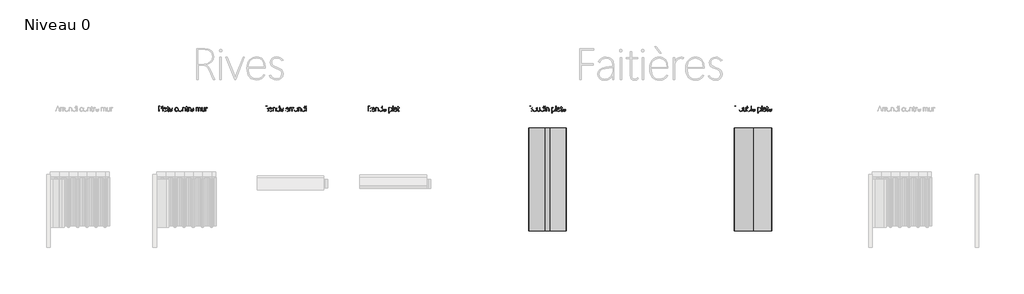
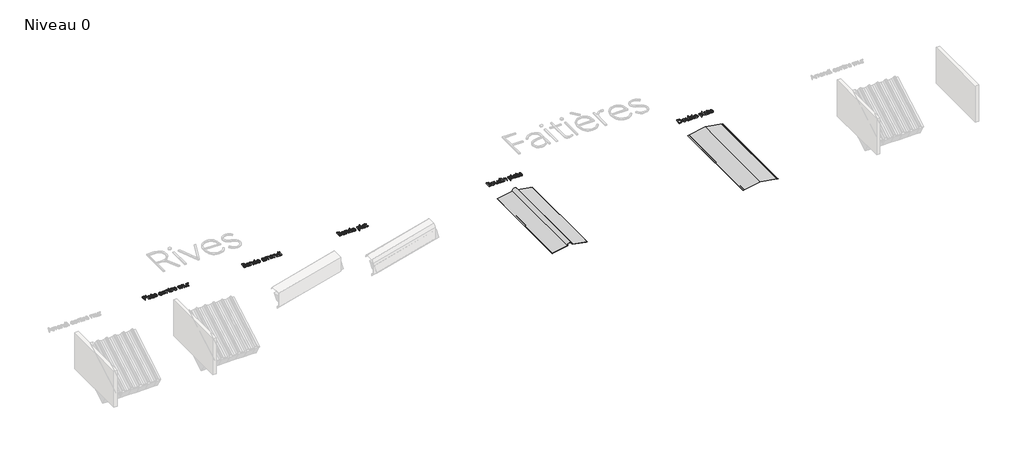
# One storey, part 18 of 26: 7 proxies.
"""IFC4 building model written with IfcOpenShell, lengths in millimetres."""

from ifc_helpers import new_model, si_unit, origin, origin_with_axes, place, context, project, spatial, polyline, outline, extrude, transform, mapped, element, save
from components import generic_models_b31ef93d, generic_models_a14e3ee3

model = new_model("IFC4")

# Units and contexts
model_context = context("Model", 3, world=origin())
ifc_project = project(units=[si_unit("LENGTHUNIT", "METRE", prefix="MILLI")], contexts=[model_context])

# Site, building, storey
site = spatial("IfcSite", under=ifc_project)
building = spatial("IfcBuilding", under=site)
storey = spatial("IfcBuildingStorey", under=building, Name="Niveau 0", Elevation=0.0)

# Proxies
placement = place(None, origin())
generic_models_shape = generic_models_b31ef93d(model_context)
element("IfcBuildingElementProxy", 1, Name="Faitiaire a bondin plat : Faitiaire a bondin plat", ObjectType="Faitiaire a bondin plat : Faitiaire a bondin plat", at=placement, inside=storey, context=model_context, shape_type="MappedRepresentation", body=[
    mapped(generic_models_shape, transform((20043.1822429, -8404.0846084, 0.0), x_axis=(0.0, -1.0, 0.0), y_axis=(1.0, 0.0, 0.0), z_axis=(0.0, 0.0, 1.0))),
])
generic_models_2_shape = generic_models_a14e3ee3(model_context)
element("IfcBuildingElementProxy", 2, Name="Faitaire a double plat : Faitaire a double plat", ObjectType="Faitaire a double plat : Faitaire a double plat", at=placement, inside=storey, context=model_context, shape_type="MappedRepresentation", body=[
    mapped(generic_models_2_shape, transform((22043.1822429, -8404.4337097, 0.0), x_axis=(0.0, -1.0, 0.0), y_axis=(1.0, 0.0, 0.0), z_axis=(0.0, 0.0, 1.0))),
])
element("IfcBuildingElementProxy", 3, Name="0.5mm", ObjectType="0.5mm", at=placement, inside=storey, context=model_context, shape_type="SweptSolid", body=[
    extrude(outline(polyline([(21864.535279, -8239.2596825), (21864.535279, -8189.2569805), (21875.5147476, -8189.2569805), (21886.3361447, -8190.891627), (21894.5205351, -8195.7955665), (21899.6699506, -8203.5931464), (21901.3864224, -8213.9087143), (21899.6085816, -8224.3116864), (21894.2750592, -8232.3714793), (21885.9325971, -8237.5376317), (21875.1279371, -8239.2596825), (21864.535279, -8239.2596825)]), holes=[polyline([(21866.841265, -8191.3844385), (21866.841265, -8237.1322245), (21874.8898998, -8237.1322245), (21884.9302371, -8235.5849823), (21892.5864824, -8230.9432557), (21897.4346319, -8223.6087326), (21899.0506818, -8213.9831009), (21897.4774042, -8204.3983818), (21892.7575717, -8197.2758607), (21885.2296433, -8192.857294), (21875.2320784, -8191.3844385), (21866.841265, -8191.3844385)])]), origin_with_axes(), (0.0, 0.0, 1.0), 10.0),
    extrude(outline(polyline([(21924.7884605, -8240.0928129), (21912.5667349, -8234.9303798), (21907.9175697, -8221.4812746), (21912.7229469, -8207.9131508), (21924.9223565, -8202.676331), (21937.0622568, -8207.9280281), (21941.6593514, -8221.406888), (21937.0027475, -8234.8783092), (21924.7884605, -8240.0928129)]), holes=[polyline([(21924.8628472, -8238.0397415), (21935.4555053, -8233.4054536), (21939.427752, -8221.3771333), (21935.4703826, -8209.3636903), (21924.9223565, -8204.7442797), (21914.2404344, -8209.4455156), (21910.149169, -8221.5110293), (21914.1734865, -8233.4575243), (21924.8628472, -8238.0397415)])]), origin_with_axes(), (0.0, 0.0, 1.0), 10.0),
    extrude(outline(polyline([(21975.2672371, -8239.2299278), (21973.139779, -8239.2299278), (21973.139779, -8233.1153457), (21968.1856286, -8238.3000948), (21961.282548, -8240.0928129), (21952.1478681, -8236.366042), (21948.8004692, -8226.0486145), (21948.8004692, -8203.5243388), (21950.9576818, -8203.5243388), (21950.9576818, -8225.8403319), (21953.7620583, -8234.7816065), (21961.461076, -8238.0397415), (21969.8221347, -8234.5733239), (21973.139779, -8225.7659453), (21973.139779, -8203.5243388), (21975.2672371, -8203.5243388), (21975.2672371, -8239.2299278)])), origin_with_axes(), (0.0, 0.0, 1.0), 10.0),
    extrude(outline(polyline([(21987.9724758, -8233.1897323), (21987.8683345, -8239.2596825), (21985.7111219, -8239.2596825), (21985.7111219, -8186.4005333), (21987.8683345, -8186.4005333), (21987.8683345, -8211.6771149), (21993.1721022, -8205.2054769), (22001.644741, -8202.676331), (22012.415927, -8207.3850056), (22016.2840325, -8220.186947), (22011.9621685, -8234.9006251), (22000.3950454, -8240.0928129), (21992.7034664, -8238.1587601), (21987.9724758, -8233.1897323)]), holes=[polyline([(21987.8683345, -8219.7257498), (21987.8683345, -8226.0783692), (21991.3719455, -8234.5361306), (22000.4248, -8238.0397415), (22010.310785, -8233.5244722), (22014.0524332, -8220.2167016), (22010.7273502, -8208.8355451), (22001.5405997, -8204.7442797), (21991.6546147, -8208.9768798), (21987.8683345, -8219.7257498)])]), origin_with_axes(), (0.0, 0.0, 1.0), 10.0),
    extrude(outline(polyline([(22024.7492326, -8239.2596825), (22024.7492326, -8186.4005333), (22026.9064452, -8186.4005333), (22026.9064452, -8239.2596825), (22024.7492326, -8239.2596825)])), origin_with_axes(), (0.0, 0.0, 1.0), 10.0),
    extrude(outline(polyline([(22064.9626522, -8220.4770549), (22037.6925086, -8220.7374082), (22041.2705062, -8233.7476322), (22051.1267365, -8238.0694962), (22057.8810437, -8236.3957967), (22062.6566663, -8231.3746982), (22064.546087, -8232.3863566), (22059.07123, -8238.1661988), (22051.1267365, -8240.1374449), (22039.7530186, -8235.3543837), (22035.5055413, -8220.6332669), (22039.9092306, -8207.5932882), (22051.1267365, -8202.676331), (22061.332584, -8207.176723), (22064.9626522, -8220.4770549)]), holes=[polyline([(22062.7608076, -8218.7289688), (22059.5026726, -8208.2776453), (22051.0523498, -8204.7442797), (22041.9548633, -8208.3669093), (22037.7966499, -8218.7289688), (22062.7608076, -8218.7289688)])]), origin_with_axes(), (0.0, 0.0, 1.0), 10.0),
    extrude(outline(polyline([(22092.7088704, -8233.1897323), (22092.6047291, -8255.6842534), (22090.4475164, -8255.6842534), (22090.4475164, -8203.5540934), (22092.6047291, -8203.5540934), (22092.6047291, -8211.6771149), (22097.8266715, -8205.1905996), (22106.2769942, -8202.676331), (22117.0035483, -8207.5784109), (22120.9609177, -8220.320843), (22116.6316151, -8234.9303798), (22105.0868079, -8240.0928129), (22097.4249836, -8238.1587601), (22092.7088704, -8233.1897323)]), holes=[polyline([(22092.6047291, -8219.7257498), (22092.6047291, -8226.0783692), (22096.10834, -8234.5361306), (22105.1314399, -8238.0397415), (22114.9951089, -8233.5616656), (22118.7293184, -8220.3654749), (22115.3075328, -8209.0140731), (22106.1728529, -8204.7442797), (22096.197604, -8209.1554077), (22092.6047291, -8219.7257498)])]), origin_with_axes(), (0.0, 0.0, 1.0), 10.0),
    extrude(outline(polyline([(22129.4856271, -8239.2596825), (22129.4856271, -8186.4005333), (22131.6428398, -8186.4005333), (22131.6428398, -8239.2596825), (22129.4856271, -8239.2596825)])), origin_with_axes(), (0.0, 0.0, 1.0), 10.0),
    extrude(outline(polyline([(22166.6343171, -8239.2596825), (22164.4622271, -8239.2596825), (22164.4622271, -8232.3863566), (22159.2179687, -8237.9356002), (22151.6677243, -8240.0928129), (22143.6339668, -8237.3033137), (22140.792397, -8230.1547573), (22143.89432, -8222.8871822), (22153.6315317, -8219.145534), (22164.506859, -8217.6131691), (22164.506859, -8215.5154658), (22161.7694305, -8207.4817082), (22154.3605208, -8204.7442797), (22148.1343587, -8206.4179792), (22143.6488441, -8211.364691), (22141.6701594, -8210.2488914), (22147.085507, -8204.6178224), (22154.3605208, -8202.676331), (22163.3017954, -8206.0088527), (22166.6343171, -8215.5452204), (22166.6343171, -8239.2596825)]), holes=[polyline([(22164.4622271, -8225.3493801), (22164.4622271, -8219.6662405), (22153.8993236, -8221.094464), (22145.6572835, -8224.0699298), (22143.0239963, -8230.095248), (22145.4118076, -8235.9494768), (22151.8462523, -8238.1141282), (22160.7205789, -8234.4319893), (22164.4622271, -8225.3493801)])]), origin_with_axes(), (0.0, 0.0, 1.0), 10.0),
    extrude(outline(polyline([(22191.7323707, -8237.519035), (22188.7940983, -8239.3861398), (22185.5582793, -8239.9589169), (22180.5223035, -8238.0025482), (22178.8337266, -8232.1483193), (22178.8337266, -8205.5476555), (22172.287702, -8205.5476555), (22172.287702, -8203.5540934), (22178.8337266, -8203.5540934), (22178.8337266, -8193.9582164), (22180.9909393, -8193.5862831), (22180.9909393, -8203.5540934), (22190.7207123, -8203.5540934), (22190.7207123, -8205.5476555), (22180.9909393, -8205.5476555), (22180.9909393, -8231.999546), (22182.1811256, -8236.4850607), (22185.7070525, -8237.9653549), (22188.1618118, -8237.496719), (22190.4826751, -8235.9420382), (22191.7323707, -8237.519035)])), origin_with_axes(), (0.0, 0.0, 1.0), 10.0),
    extrude(outline(polyline([(22224.9236912, -8220.4770549), (22197.6535475, -8220.7374082), (22201.2315451, -8233.7476322), (22211.0877754, -8238.0694962), (22217.8420827, -8236.3957967), (22222.6177052, -8231.3746982), (22224.507126, -8232.3863566), (22219.032269, -8238.1661988), (22211.0877754, -8240.1374449), (22199.7140576, -8235.3543837), (22195.4665802, -8220.6332669), (22199.8702695, -8207.5932882), (22211.0877754, -8202.676331), (22221.293623, -8207.176723), (22224.9236912, -8220.4770549)]), holes=[polyline([(22222.7218465, -8218.7289688), (22219.4637115, -8208.2776453), (22211.0133888, -8204.7442797), (22201.9159022, -8208.3669093), (22197.7576888, -8218.7289688), (22222.7218465, -8218.7289688)])]), origin_with_axes(), (0.0, 0.0, 1.0), 10.0),
])
element("IfcBuildingElementProxy", 4, Name="0.5mm", ObjectType="0.5mm", at=placement, inside=storey, context=model_context, shape_type="SweptSolid", body=[
    extrude(outline(polyline([(19868.3438752, -8239.2596825), (19868.3438752, -8189.2569805), (19880.7961994, -8189.2569805), (19890.1986711, -8192.4481675), (19893.7543527, -8201.0398249), (19891.2624001, -8208.4487346), (19884.6196728, -8213.0011972), (19892.4897798, -8217.0627079), (19895.6437735, -8225.6915586), (19891.6492107, -8235.4957183), (19881.0639913, -8239.2596825), (19868.3438752, -8239.2596825)]), holes=[polyline([(19870.6498611, -8191.4141931), (19870.6498611, -8212.2722081), (19878.2372988, -8212.2722081), (19887.7811052, -8209.237233), (19891.3888574, -8201.1885981), (19888.495217, -8193.9954097), (19880.3647568, -8191.4141931), (19870.6498611, -8191.4141931)]), polyline([(19870.6498611, -8214.3996661), (19870.6498611, -8237.0578378), (19880.7218127, -8237.0578378), (19889.9308792, -8234.0600561), (19893.2782782, -8225.8700866), (19889.3729794, -8217.2561132), (19878.4604587, -8214.3996661), (19870.6498611, -8214.3996661)])]), origin_with_axes(), (0.0, 0.0, 1.0), 10.0),
    extrude(outline(polyline([(19919.0755663, -8240.0928129), (19906.8538407, -8234.9303798), (19902.2046755, -8221.4812746), (19907.0100526, -8207.9131508), (19919.2094622, -8202.676331), (19931.3493625, -8207.9280281), (19935.9464571, -8221.406888), (19931.2898532, -8234.8783092), (19919.0755663, -8240.0928129)]), holes=[polyline([(19919.1499529, -8238.0397415), (19929.742611, -8233.4054536), (19933.7148578, -8221.3771333), (19929.7574883, -8209.3636903), (19919.2094622, -8204.7442797), (19908.5275402, -8209.4455156), (19904.4362748, -8221.5110293), (19908.4605922, -8233.4575243), (19919.1499529, -8238.0397415)])]), origin_with_axes(), (0.0, 0.0, 1.0), 10.0),
    extrude(outline(polyline([(19969.5543428, -8239.2299278), (19967.4268848, -8239.2299278), (19967.4268848, -8233.1153457), (19962.4727343, -8238.3000948), (19955.5696538, -8240.0928129), (19946.4349739, -8236.366042), (19943.0875749, -8226.0486145), (19943.0875749, -8203.5243388), (19945.2447876, -8203.5243388), (19945.2447876, -8225.8403319), (19948.0491641, -8234.7816065), (19955.7481817, -8238.0397415), (19964.1092405, -8234.5733239), (19967.4268848, -8225.7659453), (19967.4268848, -8203.5243388), (19969.5543428, -8203.5243388), (19969.5543428, -8239.2299278)])), origin_with_axes(), (0.0, 0.0, 1.0), 10.0),
    extrude(outline(polyline([(20005.6839357, -8231.5532262), (20000.469432, -8237.8314589), (19992.5546931, -8240.0928129), (19981.5677858, -8235.1237851), (19977.4244497, -8221.9275945), (19982.1480016, -8207.8387641), (19993.8787753, -8202.676331), (20000.9008745, -8204.4021012), (20005.6318651, -8209.3116197), (20005.7360064, -8186.4005333), (20007.8932191, -8186.4005333), (20007.8932191, -8239.2596825), (20005.7360064, -8239.2596825), (20005.6839357, -8231.5532262)]), holes=[polyline([(19979.656049, -8221.7936985), (19983.2638013, -8233.7699482), (19992.6142024, -8238.0397415), (20002.1580088, -8233.9410374), (20005.7360064, -8223.6087326), (20005.7360064, -8216.1403136), (20002.3514141, -8208.0172921), (19993.8341434, -8204.7442797), (19983.6803665, -8209.3413743), (19979.656049, -8221.7936985)])]), origin_with_axes(), (0.0, 0.0, 1.0), 10.0),
    extrude(outline(polyline([(20019.9141007, -8194.8359788), (20018.2701559, -8194.211131), (20017.6081147, -8192.5746248), (20018.2701559, -8190.93068), (20019.9141007, -8190.2983935), (20021.5952389, -8190.93068), (20022.2052093, -8192.5746248), (20021.5952389, -8194.211131), (20019.9141007, -8194.8359788)])), origin_with_axes(), (0.0, 0.0, 1.0), 10.0),
    extrude(outline(polyline([(20021.0299004, -8239.2596825), (20018.8578104, -8239.2596825), (20018.8578104, -8203.5540934), (20021.0299004, -8203.5540934), (20021.0299004, -8239.2596825)])), origin_with_axes(), (0.0, 0.0, 1.0), 10.0),
    extrude(outline(polyline([(20059.7853418, -8239.2596825), (20057.6578838, -8239.2596825), (20057.6578838, -8217.018076), (20054.9353326, -8207.9652214), (20047.3627723, -8204.7442797), (20038.7934309, -8208.19582), (20035.4757866, -8217.018076), (20035.4757866, -8239.2596825), (20033.3185739, -8239.2596825), (20033.3185739, -8203.5540934), (20035.4757866, -8203.5540934), (20035.4757866, -8209.6537982), (20040.3778664, -8204.4764878), (20047.4817909, -8202.676331), (20056.5569615, -8206.4626112), (20059.7853418, -8216.8097934), (20059.7853418, -8239.2596825)])), origin_with_axes(), (0.0, 0.0, 1.0), 10.0),
    extrude(outline(polyline([(20088.9002742, -8233.1897323), (20088.7961329, -8255.6842534), (20086.6389202, -8255.6842534), (20086.6389202, -8203.5540934), (20088.7961329, -8203.5540934), (20088.7961329, -8211.6771149), (20094.0180753, -8205.1905996), (20102.4683981, -8202.676331), (20113.1949521, -8207.5784109), (20117.1523216, -8220.320843), (20112.8230189, -8234.9303798), (20101.2782118, -8240.0928129), (20093.6163874, -8238.1587601), (20088.9002742, -8233.1897323)]), holes=[polyline([(20088.7961329, -8219.7257498), (20088.7961329, -8226.0783692), (20092.2997438, -8234.5361306), (20101.3228437, -8238.0397415), (20111.1865127, -8233.5616656), (20114.9207222, -8220.3654749), (20111.4989366, -8209.0140731), (20102.3642568, -8204.7442797), (20092.3890078, -8209.1554077), (20088.7961329, -8219.7257498)])]), origin_with_axes(), (0.0, 0.0, 1.0), 10.0),
    extrude(outline(polyline([(20125.6770309, -8239.2596825), (20125.6770309, -8186.4005333), (20127.8342436, -8186.4005333), (20127.8342436, -8239.2596825), (20125.6770309, -8239.2596825)])), origin_with_axes(), (0.0, 0.0, 1.0), 10.0),
    extrude(outline(polyline([(20162.8257209, -8239.2596825), (20160.6536309, -8239.2596825), (20160.6536309, -8232.3863566), (20155.4093725, -8237.9356002), (20147.8591281, -8240.0928129), (20139.8253706, -8237.3033137), (20136.9838008, -8230.1547573), (20140.0857239, -8222.8871822), (20149.8229355, -8219.145534), (20160.6982629, -8217.6131691), (20160.6982629, -8215.5154658), (20157.9608344, -8207.4817082), (20150.5519247, -8204.7442797), (20144.3257626, -8206.4179792), (20139.8402479, -8211.364691), (20137.8615632, -8210.2488914), (20143.2769109, -8204.6178224), (20150.5519247, -8202.676331), (20159.4931992, -8206.0088527), (20162.8257209, -8215.5452204), (20162.8257209, -8239.2596825)]), holes=[polyline([(20160.6536309, -8225.3493801), (20160.6536309, -8219.6662405), (20150.0907275, -8221.094464), (20141.8486873, -8224.0699298), (20139.2154001, -8230.095248), (20141.6032114, -8235.9494768), (20148.0376561, -8238.1141282), (20156.9119827, -8234.4319893), (20160.6536309, -8225.3493801)])]), origin_with_axes(), (0.0, 0.0, 1.0), 10.0),
    extrude(outline(polyline([(20187.9237745, -8237.519035), (20184.9855021, -8239.3861398), (20181.7496831, -8239.9589169), (20176.7137073, -8238.0025482), (20175.0251305, -8232.1483193), (20175.0251305, -8205.5476555), (20168.4791058, -8205.5476555), (20168.4791058, -8203.5540934), (20175.0251305, -8203.5540934), (20175.0251305, -8193.9582164), (20177.1823432, -8193.5862831), (20177.1823432, -8203.5540934), (20186.9121162, -8203.5540934), (20186.9121162, -8205.5476555), (20177.1823432, -8205.5476555), (20177.1823432, -8231.999546), (20178.3725295, -8236.4850607), (20181.8984564, -8237.9653549), (20184.3532156, -8237.496719), (20186.6740789, -8235.9420382), (20187.9237745, -8237.519035)])), origin_with_axes(), (0.0, 0.0, 1.0), 10.0),
    extrude(outline(polyline([(20221.115095, -8220.4770549), (20193.8449514, -8220.7374082), (20197.4229489, -8233.7476322), (20207.2791793, -8238.0694962), (20214.0334865, -8236.3957967), (20218.8091091, -8231.3746982), (20220.6985298, -8232.3863566), (20215.2236728, -8238.1661988), (20207.2791793, -8240.1374449), (20195.9054614, -8235.3543837), (20191.657984, -8220.6332669), (20196.0616734, -8207.5932882), (20207.2791793, -8202.676331), (20217.4850268, -8207.176723), (20221.115095, -8220.4770549)]), holes=[polyline([(20218.9132504, -8218.7289688), (20215.6551154, -8208.2776453), (20207.2047926, -8204.7442797), (20198.1073061, -8208.3669093), (20193.9490927, -8218.7289688), (20218.9132504, -8218.7289688)])]), origin_with_axes(), (0.0, 0.0, 1.0), 10.0),
])
element("IfcBuildingElementProxy", 5, Name="0.5mm", ObjectType="0.5mm", at=placement, inside=storey, context=model_context, shape_type="SweptSolid", body=[
    extrude(outline(polyline([(18301.2173677, -8239.2596825), (18301.2173677, -8189.2569805), (18313.6696919, -8189.2569805), (18323.0721637, -8192.4481675), (18326.6278453, -8201.0398249), (18324.1358927, -8208.4487346), (18317.4931654, -8213.0011972), (18325.3632723, -8217.0627079), (18328.517266, -8225.6915586), (18324.5227033, -8235.4957183), (18313.9374838, -8239.2596825), (18301.2173677, -8239.2596825)]), holes=[polyline([(18303.5233537, -8191.4141931), (18303.5233537, -8212.2722081), (18311.1107914, -8212.2722081), (18320.6545978, -8209.237233), (18324.26235, -8201.1885981), (18321.3687096, -8193.9954097), (18313.2382494, -8191.4141931), (18303.5233537, -8191.4141931)]), polyline([(18303.5233537, -8214.3996661), (18303.5233537, -8237.0578378), (18313.5953053, -8237.0578378), (18322.8043718, -8234.0600561), (18326.1517708, -8225.8700866), (18322.246472, -8217.2561132), (18311.3339513, -8214.3996661), (18303.5233537, -8214.3996661)])]), origin_with_axes(), (0.0, 0.0, 1.0), 10.0),
    extrude(outline(polyline([(18361.4705493, -8239.2596825), (18359.2984593, -8239.2596825), (18359.2984593, -8232.3863566), (18354.0542009, -8237.9356002), (18346.5039565, -8240.0928129), (18338.470199, -8237.3033137), (18335.6286292, -8230.1547573), (18338.7305522, -8222.8871822), (18348.4677639, -8219.145534), (18359.3430913, -8217.6131691), (18359.3430913, -8215.5154658), (18356.6056628, -8207.4817082), (18349.196753, -8204.7442797), (18342.9705909, -8206.4179792), (18338.4850763, -8211.364691), (18336.5063916, -8210.2488914), (18341.9217393, -8204.6178224), (18349.196753, -8202.676331), (18358.1380276, -8206.0088527), (18361.4705493, -8215.5452204), (18361.4705493, -8239.2596825)]), holes=[polyline([(18359.2984593, -8225.3493801), (18359.2984593, -8219.6662405), (18348.7355558, -8221.094464), (18340.4935157, -8224.0699298), (18337.8602285, -8230.095248), (18340.2480398, -8235.9494768), (18346.6824845, -8238.1141282), (18355.5568111, -8234.4319893), (18359.2984593, -8225.3493801)])]), origin_with_axes(), (0.0, 0.0, 1.0), 10.0),
    extrude(outline(polyline([(18398.3960793, -8239.2596825), (18396.2686213, -8239.2596825), (18396.2686213, -8217.018076), (18393.5460701, -8207.9652214), (18385.9735098, -8204.7442797), (18377.4041684, -8208.19582), (18374.0865241, -8217.018076), (18374.0865241, -8239.2596825), (18371.9293114, -8239.2596825), (18371.9293114, -8203.5540934), (18374.0865241, -8203.5540934), (18374.0865241, -8209.6537982), (18378.9886039, -8204.4764878), (18386.0925284, -8202.676331), (18395.1676989, -8206.4626112), (18398.3960793, -8216.8097934), (18398.3960793, -8239.2596825)])), origin_with_axes(), (0.0, 0.0, 1.0), 10.0),
    extrude(outline(polyline([(18433.7966831, -8231.5532262), (18428.5821794, -8237.8314589), (18420.6674405, -8240.0928129), (18409.6805332, -8235.1237851), (18405.5371971, -8221.9275945), (18410.260749, -8207.8387641), (18421.9915227, -8202.676331), (18429.0136219, -8204.4021012), (18433.7446125, -8209.3116197), (18433.8487538, -8186.4005333), (18436.0059664, -8186.4005333), (18436.0059664, -8239.2596825), (18433.8487538, -8239.2596825), (18433.7966831, -8231.5532262)]), holes=[polyline([(18407.7687964, -8221.7936985), (18411.3765486, -8233.7699482), (18420.7269498, -8238.0397415), (18430.2707562, -8233.9410374), (18433.8487538, -8223.6087326), (18433.8487538, -8216.1403136), (18430.4641615, -8208.0172921), (18421.9468907, -8204.7442797), (18411.7931138, -8209.3413743), (18407.7687964, -8221.7936985)])]), origin_with_axes(), (0.0, 0.0, 1.0), 10.0),
    extrude(outline(polyline([(18474.0324188, -8220.4770549), (18446.7622751, -8220.7374082), (18450.3402727, -8233.7476322), (18460.196503, -8238.0694962), (18466.9508103, -8236.3957967), (18471.7264328, -8231.3746982), (18473.6158536, -8232.3863566), (18468.1409966, -8238.1661988), (18460.196503, -8240.1374449), (18448.8227852, -8235.3543837), (18444.5753078, -8220.6332669), (18448.9789971, -8207.5932882), (18460.196503, -8202.676331), (18470.4023505, -8207.176723), (18474.0324188, -8220.4770549)]), holes=[polyline([(18471.8305741, -8218.7289688), (18468.5724391, -8208.2776453), (18460.1221164, -8204.7442797), (18451.0246298, -8208.3669093), (18446.8664164, -8218.7289688), (18471.8305741, -8218.7289688)])]), origin_with_axes(), (0.0, 0.0, 1.0), 10.0),
    extrude(outline(polyline([(18501.7786369, -8233.1897323), (18501.6744956, -8255.6842534), (18499.517283, -8255.6842534), (18499.517283, -8203.5540934), (18501.6744956, -8203.5540934), (18501.6744956, -8211.6771149), (18506.896438, -8205.1905996), (18515.3467608, -8202.676331), (18526.0733148, -8207.5784109), (18530.0306843, -8220.320843), (18525.7013816, -8234.9303798), (18514.1565745, -8240.0928129), (18506.4947501, -8238.1587601), (18501.7786369, -8233.1897323)]), holes=[polyline([(18501.6744956, -8219.7257498), (18501.6744956, -8226.0783692), (18505.1781066, -8234.5361306), (18514.2012065, -8238.0397415), (18524.0648754, -8233.5616656), (18527.799085, -8220.3654749), (18524.3772993, -8209.0140731), (18515.2426195, -8204.7442797), (18505.2673705, -8209.1554077), (18501.6744956, -8219.7257498)])]), origin_with_axes(), (0.0, 0.0, 1.0), 10.0),
    extrude(outline(polyline([(18538.5553937, -8239.2596825), (18538.5553937, -8186.4005333), (18540.7126063, -8186.4005333), (18540.7126063, -8239.2596825), (18538.5553937, -8239.2596825)])), origin_with_axes(), (0.0, 0.0, 1.0), 10.0),
    extrude(outline(polyline([(18575.7040836, -8239.2596825), (18573.5319936, -8239.2596825), (18573.5319936, -8232.3863566), (18568.2877352, -8237.9356002), (18560.7374909, -8240.0928129), (18552.7037333, -8237.3033137), (18549.8621635, -8230.1547573), (18552.9640866, -8222.8871822), (18562.7012983, -8219.145534), (18573.5766256, -8217.6131691), (18573.5766256, -8215.5154658), (18570.8391971, -8207.4817082), (18563.4302874, -8204.7442797), (18557.2041253, -8206.4179792), (18552.7186106, -8211.364691), (18550.7399259, -8210.2488914), (18556.1552736, -8204.6178224), (18563.4302874, -8202.676331), (18572.371562, -8206.0088527), (18575.7040836, -8215.5452204), (18575.7040836, -8239.2596825)]), holes=[polyline([(18573.5319936, -8225.3493801), (18573.5319936, -8219.6662405), (18562.9690902, -8221.094464), (18554.72705, -8224.0699298), (18552.0937628, -8230.095248), (18554.4815741, -8235.9494768), (18560.9160188, -8238.1141282), (18569.7903454, -8234.4319893), (18573.5319936, -8225.3493801)])]), origin_with_axes(), (0.0, 0.0, 1.0), 10.0),
    extrude(outline(polyline([(18600.8021372, -8237.519035), (18597.8638648, -8239.3861398), (18594.6280458, -8239.9589169), (18589.59207, -8238.0025482), (18587.9034932, -8232.1483193), (18587.9034932, -8205.5476555), (18581.3574685, -8205.5476555), (18581.3574685, -8203.5540934), (18587.9034932, -8203.5540934), (18587.9034932, -8193.9582164), (18590.0607059, -8193.5862831), (18590.0607059, -8203.5540934), (18599.7904789, -8203.5540934), (18599.7904789, -8205.5476555), (18590.0607059, -8205.5476555), (18590.0607059, -8231.999546), (18591.2508922, -8236.4850607), (18594.7768191, -8237.9653549), (18597.2315783, -8237.496719), (18599.5524416, -8235.9420382), (18600.8021372, -8237.519035)])), origin_with_axes(), (0.0, 0.0, 1.0), 10.0),
])
element("IfcBuildingElementProxy", 6, Name="0.5mm", ObjectType="0.5mm", at=placement, inside=storey, context=model_context, shape_type="SweptSolid", body=[
    extrude(outline(polyline([(17301.2173677, -8239.2596825), (17301.2173677, -8189.2569805), (17313.6696919, -8189.2569805), (17323.0721637, -8192.4481675), (17326.6278453, -8201.0398249), (17324.1358927, -8208.4487346), (17317.4931654, -8213.0011972), (17325.3632723, -8217.0627079), (17328.517266, -8225.6915586), (17324.5227033, -8235.4957183), (17313.9374838, -8239.2596825), (17301.2173677, -8239.2596825)]), holes=[polyline([(17303.5233537, -8191.4141931), (17303.5233537, -8212.2722081), (17311.1107914, -8212.2722081), (17320.6545978, -8209.237233), (17324.26235, -8201.1885981), (17321.3687096, -8193.9954097), (17313.2382494, -8191.4141931), (17303.5233537, -8191.4141931)]), polyline([(17303.5233537, -8214.3996661), (17303.5233537, -8237.0578378), (17313.5953053, -8237.0578378), (17322.8043718, -8234.0600561), (17326.1517708, -8225.8700866), (17322.246472, -8217.2561132), (17311.3339513, -8214.3996661), (17303.5233537, -8214.3996661)])]), origin_with_axes(), (0.0, 0.0, 1.0), 10.0),
    extrude(outline(polyline([(17361.4705493, -8239.2596825), (17359.2984593, -8239.2596825), (17359.2984593, -8232.3863566), (17354.0542009, -8237.9356002), (17346.5039565, -8240.0928129), (17338.470199, -8237.3033137), (17335.6286292, -8230.1547573), (17338.7305522, -8222.8871822), (17348.4677639, -8219.145534), (17359.3430913, -8217.6131691), (17359.3430913, -8215.5154658), (17356.6056628, -8207.4817082), (17349.196753, -8204.7442797), (17342.9705909, -8206.4179792), (17338.4850763, -8211.364691), (17336.5063916, -8210.2488914), (17341.9217393, -8204.6178224), (17349.196753, -8202.676331), (17358.1380276, -8206.0088527), (17361.4705493, -8215.5452204), (17361.4705493, -8239.2596825)]), holes=[polyline([(17359.2984593, -8225.3493801), (17359.2984593, -8219.6662405), (17348.7355558, -8221.094464), (17340.4935157, -8224.0699298), (17337.8602285, -8230.095248), (17340.2480398, -8235.9494768), (17346.6824845, -8238.1141282), (17355.5568111, -8234.4319893), (17359.2984593, -8225.3493801)])]), origin_with_axes(), (0.0, 0.0, 1.0), 10.0),
    extrude(outline(polyline([(17398.3960793, -8239.2596825), (17396.2686213, -8239.2596825), (17396.2686213, -8217.018076), (17393.5460701, -8207.9652214), (17385.9735098, -8204.7442797), (17377.4041684, -8208.19582), (17374.0865241, -8217.018076), (17374.0865241, -8239.2596825), (17371.9293114, -8239.2596825), (17371.9293114, -8203.5540934), (17374.0865241, -8203.5540934), (17374.0865241, -8209.6537982), (17378.9886039, -8204.4764878), (17386.0925284, -8202.676331), (17395.1676989, -8206.4626112), (17398.3960793, -8216.8097934), (17398.3960793, -8239.2596825)])), origin_with_axes(), (0.0, 0.0, 1.0), 10.0),
    extrude(outline(polyline([(17433.7966831, -8231.5532262), (17428.5821794, -8237.8314589), (17420.6674405, -8240.0928129), (17409.6805332, -8235.1237851), (17405.5371971, -8221.9275945), (17410.260749, -8207.8387641), (17421.9915227, -8202.676331), (17429.0136219, -8204.4021012), (17433.7446125, -8209.3116197), (17433.8487538, -8186.4005333), (17436.0059664, -8186.4005333), (17436.0059664, -8239.2596825), (17433.8487538, -8239.2596825), (17433.7966831, -8231.5532262)]), holes=[polyline([(17407.7687964, -8221.7936985), (17411.3765486, -8233.7699482), (17420.7269498, -8238.0397415), (17430.2707562, -8233.9410374), (17433.8487538, -8223.6087326), (17433.8487538, -8216.1403136), (17430.4641615, -8208.0172921), (17421.9468907, -8204.7442797), (17411.7931138, -8209.3413743), (17407.7687964, -8221.7936985)])]), origin_with_axes(), (0.0, 0.0, 1.0), 10.0),
    extrude(outline(polyline([(17474.0324188, -8220.4770549), (17446.7622751, -8220.7374082), (17450.3402727, -8233.7476322), (17460.196503, -8238.0694962), (17466.9508103, -8236.3957967), (17471.7264328, -8231.3746982), (17473.6158536, -8232.3863566), (17468.1409966, -8238.1661988), (17460.196503, -8240.1374449), (17448.8227852, -8235.3543837), (17444.5753078, -8220.6332669), (17448.9789971, -8207.5932882), (17460.196503, -8202.676331), (17470.4023505, -8207.176723), (17474.0324188, -8220.4770549)]), holes=[polyline([(17471.8305741, -8218.7289688), (17468.5724391, -8208.2776453), (17460.1221164, -8204.7442797), (17451.0246298, -8208.3669093), (17446.8664164, -8218.7289688), (17471.8305741, -8218.7289688)])]), origin_with_axes(), (0.0, 0.0, 1.0), 10.0),
    extrude(outline(polyline([(17523.3358863, -8239.2596825), (17521.1637963, -8239.2596825), (17521.1637963, -8232.3863566), (17515.9195379, -8237.9356002), (17508.3692936, -8240.0928129), (17500.335536, -8237.3033137), (17497.4939662, -8230.1547573), (17500.5958893, -8222.8871822), (17510.333101, -8219.145534), (17521.2084283, -8217.6131691), (17521.2084283, -8215.5154658), (17518.4709998, -8207.4817082), (17511.0620901, -8204.7442797), (17504.835928, -8206.4179792), (17500.3504134, -8211.364691), (17498.3717286, -8210.2488914), (17503.7870763, -8204.6178224), (17511.0620901, -8202.676331), (17520.0033647, -8206.0088527), (17523.3358863, -8215.5452204), (17523.3358863, -8239.2596825)]), holes=[polyline([(17521.1637963, -8225.3493801), (17521.1637963, -8219.6662405), (17510.6008929, -8221.094464), (17502.3588527, -8224.0699298), (17499.7255656, -8230.095248), (17502.1133768, -8235.9494768), (17508.5478215, -8238.1141282), (17517.4221481, -8234.4319893), (17521.1637963, -8225.3493801)])]), origin_with_axes(), (0.0, 0.0, 1.0), 10.0),
    extrude(outline(polyline([(17549.5943716, -8205.5476555), (17547.8686015, -8204.960001), (17546.1428313, -8204.803789), (17538.8008696, -8209.0066344), (17535.9221065, -8221.1242187), (17535.9221065, -8239.2596825), (17533.7946484, -8239.2596825), (17533.7946484, -8203.5540934), (17535.9221065, -8203.5540934), (17535.9221065, -8211.4390777), (17539.9315466, -8205.071581), (17546.2469726, -8202.8251043), (17548.300044, -8202.9961936), (17550.427502, -8203.6582347), (17549.5943716, -8205.5476555)])), origin_with_axes(), (0.0, 0.0, 1.0), 10.0),
    extrude(outline(polyline([(17572.4459486, -8205.5476555), (17570.7201785, -8204.960001), (17568.9944083, -8204.803789), (17561.6524466, -8209.0066344), (17558.7736835, -8221.1242187), (17558.7736835, -8239.2596825), (17556.6462254, -8239.2596825), (17556.6462254, -8203.5540934), (17558.7736835, -8203.5540934), (17558.7736835, -8211.4390777), (17562.7831236, -8205.071581), (17569.0985496, -8202.8251043), (17571.151621, -8202.9961936), (17573.279079, -8203.6582347), (17572.4459486, -8205.5476555)])), origin_with_axes(), (0.0, 0.0, 1.0), 10.0),
    extrude(outline(polyline([(17593.7949154, -8240.0928129), (17581.5731898, -8234.9303798), (17576.9240246, -8221.4812746), (17581.7294018, -8207.9131508), (17593.9288113, -8202.676331), (17606.0687116, -8207.9280281), (17610.6658062, -8221.406888), (17606.0092023, -8234.8783092), (17593.7949154, -8240.0928129)]), holes=[polyline([(17593.869302, -8238.0397415), (17604.4619601, -8233.4054536), (17608.4342069, -8221.3771333), (17604.4768374, -8209.3636903), (17593.9288113, -8204.7442797), (17583.2468893, -8209.4455156), (17579.1556239, -8221.5110293), (17583.1799413, -8233.4575243), (17593.869302, -8238.0397415)])]), origin_with_axes(), (0.0, 0.0, 1.0), 10.0),
    extrude(outline(polyline([(17645.002681, -8239.2596825), (17642.875223, -8239.2596825), (17642.875223, -8217.018076), (17640.1526718, -8207.9652214), (17632.5801115, -8204.7442797), (17624.0107701, -8208.19582), (17620.6931258, -8217.018076), (17620.6931258, -8239.2596825), (17618.5359131, -8239.2596825), (17618.5359131, -8203.5540934), (17620.6931258, -8203.5540934), (17620.6931258, -8209.6537982), (17625.5952056, -8204.4764878), (17632.6991301, -8202.676331), (17641.7743007, -8206.4626112), (17645.002681, -8216.8097934), (17645.002681, -8239.2596825)])), origin_with_axes(), (0.0, 0.0, 1.0), 10.0),
    extrude(outline(polyline([(17680.4032848, -8231.5532262), (17675.1887811, -8237.8314589), (17667.2740422, -8240.0928129), (17656.2871349, -8235.1237851), (17652.1437988, -8221.9275945), (17656.8673507, -8207.8387641), (17668.5981245, -8202.676331), (17675.6202236, -8204.4021012), (17680.3512142, -8209.3116197), (17680.4553555, -8186.4005333), (17682.6125682, -8186.4005333), (17682.6125682, -8239.2596825), (17680.4553555, -8239.2596825), (17680.4032848, -8231.5532262)]), holes=[polyline([(17654.3753981, -8221.7936985), (17657.9831504, -8233.7699482), (17667.3335515, -8238.0397415), (17676.8773579, -8233.9410374), (17680.4553555, -8223.6087326), (17680.4553555, -8216.1403136), (17677.0707632, -8208.0172921), (17668.5534925, -8204.7442797), (17658.3997156, -8209.3413743), (17654.3753981, -8221.7936985)])]), origin_with_axes(), (0.0, 0.0, 1.0), 10.0),
    extrude(outline(polyline([(17694.6334498, -8194.8359788), (17692.989505, -8194.211131), (17692.3274638, -8192.5746248), (17692.989505, -8190.93068), (17694.6334498, -8190.2983935), (17696.314588, -8190.93068), (17696.9245584, -8192.5746248), (17696.314588, -8194.211131), (17694.6334498, -8194.8359788)])), origin_with_axes(), (0.0, 0.0, 1.0), 10.0),
    extrude(outline(polyline([(17695.7492495, -8239.2596825), (17693.5771595, -8239.2596825), (17693.5771595, -8203.5540934), (17695.7492495, -8203.5540934), (17695.7492495, -8239.2596825)])), origin_with_axes(), (0.0, 0.0, 1.0), 10.0),
])
element("IfcBuildingElementProxy", 7, Name="0.5mm", ObjectType="0.5mm", at=placement, inside=storey, context=model_context, shape_type="SweptSolid", body=[
    extrude(outline(polyline([(16263.5233537, -8218.967006), (16263.5233537, -8239.2596825), (16261.2173677, -8239.2596825), (16261.2173677, -8189.2569805), (16271.8100258, -8189.2569805), (16283.5482382, -8193.0730153), (16287.9221729, -8203.6879894), (16283.5631156, -8214.7269673), (16271.1554234, -8218.967006), (16263.5233537, -8218.967006)]), holes=[polyline([(16263.5233537, -8191.4141931), (16263.5233537, -8216.7651614), (16271.185178, -8216.7651614), (16281.7480815, -8213.3880077), (16285.5864323, -8203.8367627), (16281.8894161, -8194.7095215), (16271.5719886, -8191.4141931), (16263.5233537, -8191.4141931)])]), origin_with_axes(), (0.0, 0.0, 1.0), 10.0),
    extrude(outline(polyline([(16297.6519459, -8239.2596825), (16297.6519459, -8186.4005333), (16299.8091586, -8186.4005333), (16299.8091586, -8239.2596825), (16297.6519459, -8239.2596825)])), origin_with_axes(), (0.0, 0.0, 1.0), 10.0),
    extrude(outline(polyline([(16334.8006359, -8239.2596825), (16332.6285459, -8239.2596825), (16332.6285459, -8232.3863566), (16327.3842875, -8237.9356002), (16319.8340431, -8240.0928129), (16311.8002856, -8237.3033137), (16308.9587158, -8230.1547573), (16312.0606388, -8222.8871822), (16321.7978505, -8219.145534), (16332.6731778, -8217.6131691), (16332.6731778, -8215.5154658), (16329.9357493, -8207.4817082), (16322.5268396, -8204.7442797), (16316.3006775, -8206.4179792), (16311.8151629, -8211.364691), (16309.8364782, -8210.2488914), (16315.2518258, -8204.6178224), (16322.5268396, -8202.676331), (16331.4681142, -8206.0088527), (16334.8006359, -8215.5452204), (16334.8006359, -8239.2596825)]), holes=[polyline([(16332.6285459, -8225.3493801), (16332.6285459, -8219.6662405), (16322.0656424, -8221.094464), (16313.8236023, -8224.0699298), (16311.1903151, -8230.095248), (16313.5781264, -8235.9494768), (16320.0125711, -8238.1141282), (16328.8868977, -8234.4319893), (16332.6285459, -8225.3493801)])]), origin_with_axes(), (0.0, 0.0, 1.0), 10.0),
    extrude(outline(polyline([(16359.8986895, -8237.519035), (16356.9604171, -8239.3861398), (16353.7245981, -8239.9589169), (16348.6886223, -8238.0025482), (16347.0000454, -8232.1483193), (16347.0000454, -8205.5476555), (16340.4540208, -8205.5476555), (16340.4540208, -8203.5540934), (16347.0000454, -8203.5540934), (16347.0000454, -8193.9582164), (16349.1572581, -8193.5862831), (16349.1572581, -8203.5540934), (16358.8870311, -8203.5540934), (16358.8870311, -8205.5476555), (16349.1572581, -8205.5476555), (16349.1572581, -8231.999546), (16350.3474444, -8236.4850607), (16353.8733713, -8237.9653549), (16356.3281306, -8237.496719), (16358.6489939, -8235.9420382), (16359.8986895, -8237.519035)])), origin_with_axes(), (0.0, 0.0, 1.0), 10.0),
    extrude(outline(polyline([(16393.09001, -8220.4770549), (16365.8198663, -8220.7374082), (16369.3978639, -8233.7476322), (16379.2540942, -8238.0694962), (16386.0084015, -8236.3957967), (16390.784024, -8231.3746982), (16392.6734448, -8232.3863566), (16387.1985878, -8238.1661988), (16379.2540942, -8240.1374449), (16367.8803764, -8235.3543837), (16363.632899, -8220.6332669), (16368.0365883, -8207.5932882), (16379.2540942, -8202.676331), (16389.4599418, -8207.176723), (16393.09001, -8220.4770549)]), holes=[polyline([(16390.8881653, -8218.7289688), (16387.6300303, -8208.2776453), (16379.1797076, -8204.7442797), (16370.082221, -8208.3669093), (16365.9240076, -8218.7289688), (16390.8881653, -8218.7289688)])]), origin_with_axes(), (0.0, 0.0, 1.0), 10.0),
    extrude(outline(polyline([(16444.9672554, -8233.4426469), (16439.6709264, -8238.3521654), (16432.0686114, -8240.0928129), (16420.5312429, -8235.0196438), (16416.0010963, -8221.4812746), (16420.7023322, -8207.7495001), (16432.5893179, -8202.676331), (16439.6188557, -8204.3202759), (16444.8928688, -8209.2074784), (16443.1968533, -8210.3827873), (16438.4658627, -8206.02373), (16432.5595632, -8204.6996477), (16422.2718904, -8209.1851624), (16418.2326956, -8221.5110293), (16422.1677491, -8233.5393496), (16432.142998, -8238.0397415), (16438.5551267, -8236.5743246), (16443.2563626, -8232.178074), (16444.9672554, -8233.4426469)])), origin_with_axes(), (0.0, 0.0, 1.0), 10.0),
    extrude(outline(polyline([(16467.1493526, -8240.0928129), (16454.927627, -8234.9303798), (16450.2784618, -8221.4812746), (16455.083839, -8207.9131508), (16467.2832486, -8202.676331), (16479.4231489, -8207.9280281), (16484.0202434, -8221.406888), (16479.3636395, -8234.8783092), (16467.1493526, -8240.0928129)]), holes=[polyline([(16467.2237393, -8238.0397415), (16477.8163973, -8233.4054536), (16481.7886441, -8221.3771333), (16477.8312747, -8209.3636903), (16467.2832486, -8204.7442797), (16456.6013265, -8209.4455156), (16452.5100611, -8221.5110293), (16456.5343785, -8233.4575243), (16467.2237393, -8238.0397415)])]), origin_with_axes(), (0.0, 0.0, 1.0), 10.0),
    extrude(outline(polyline([(16518.3571182, -8239.2596825), (16516.2296602, -8239.2596825), (16516.2296602, -8217.018076), (16513.5071091, -8207.9652214), (16505.9345487, -8204.7442797), (16497.3652074, -8208.19582), (16494.047563, -8217.018076), (16494.047563, -8239.2596825), (16491.8903504, -8239.2596825), (16491.8903504, -8203.5540934), (16494.047563, -8203.5540934), (16494.047563, -8209.6537982), (16498.9496429, -8204.4764878), (16506.0535674, -8202.676331), (16515.1287379, -8206.4626112), (16518.3571182, -8216.8097934), (16518.3571182, -8239.2596825)])), origin_with_axes(), (0.0, 0.0, 1.0), 10.0),
    extrude(outline(polyline([(16542.7113054, -8237.519035), (16539.773033, -8239.3861398), (16536.537214, -8239.9589169), (16531.5012382, -8238.0025482), (16529.8126614, -8232.1483193), (16529.8126614, -8205.5476555), (16523.2666367, -8205.5476555), (16523.2666367, -8203.5540934), (16529.8126614, -8203.5540934), (16529.8126614, -8193.9582164), (16531.9698741, -8193.5862831), (16531.9698741, -8203.5540934), (16541.6996471, -8203.5540934), (16541.6996471, -8205.5476555), (16531.9698741, -8205.5476555), (16531.9698741, -8231.999546), (16533.1600604, -8236.4850607), (16536.6859873, -8237.9653549), (16539.1407465, -8237.496719), (16541.4616098, -8235.9420382), (16542.7113054, -8237.519035)])), origin_with_axes(), (0.0, 0.0, 1.0), 10.0),
    extrude(outline(polyline([(16564.819016, -8205.5476555), (16563.0932459, -8204.960001), (16561.3674757, -8204.803789), (16554.025514, -8209.0066344), (16551.1467509, -8221.1242187), (16551.1467509, -8239.2596825), (16549.0192928, -8239.2596825), (16549.0192928, -8203.5540934), (16551.1467509, -8203.5540934), (16551.1467509, -8211.4390777), (16555.156191, -8205.071581), (16561.471617, -8202.8251043), (16563.5246884, -8202.9961936), (16565.6521464, -8203.6582347), (16564.819016, -8205.5476555)])), origin_with_axes(), (0.0, 0.0, 1.0), 10.0),
    extrude(outline(polyline([(16598.7542029, -8220.4770549), (16571.4840593, -8220.7374082), (16575.0620569, -8233.7476322), (16584.9182872, -8238.0694962), (16591.6725944, -8236.3957967), (16596.448217, -8231.3746982), (16598.3376377, -8232.3863566), (16592.8627807, -8238.1661988), (16584.9182872, -8240.1374449), (16573.5445693, -8235.3543837), (16569.297092, -8220.6332669), (16573.7007813, -8207.5932882), (16584.9182872, -8202.676331), (16595.1241347, -8207.176723), (16598.7542029, -8220.4770549)]), holes=[polyline([(16596.5523583, -8218.7289688), (16593.2942233, -8208.2776453), (16584.8439005, -8204.7442797), (16575.746414, -8208.3669093), (16571.5882006, -8218.7289688), (16596.5523583, -8218.7289688)])]), origin_with_axes(), (0.0, 0.0, 1.0), 10.0),
    extrude(outline(polyline([(16670.9241248, -8239.2596825), (16668.7966668, -8239.2596825), (16668.7966668, -8217.018076), (16666.3195916, -8207.7420615), (16659.4537043, -8204.7442797), (16651.769564, -8208.262768), (16648.6825183, -8217.2263586), (16648.6825183, -8239.2596825), (16646.5253056, -8239.2596825), (16646.5253056, -8216.839548), (16644.2416357, -8207.9131508), (16637.4501351, -8204.7442797), (16629.4833255, -8208.1214334), (16626.3962798, -8216.973444), (16626.3962798, -8239.2596825), (16624.2390671, -8239.2596825), (16624.2390671, -8203.5540934), (16626.3962798, -8203.5540934), (16626.3962798, -8209.371129), (16631.1272703, -8204.3723465), (16637.628663, -8202.676331), (16644.4796729, -8205.0120716), (16647.9535292, -8211.2307951), (16652.5506238, -8204.9302463), (16659.483459, -8202.676331), (16667.9784137, -8206.2915219), (16670.9241248, -8216.839548), (16670.9241248, -8239.2596825)])), origin_with_axes(), (0.0, 0.0, 1.0), 10.0),
    extrude(outline(polyline([(16707.1057884, -8239.2299278), (16704.9783304, -8239.2299278), (16704.9783304, -8233.1153457), (16700.0241799, -8238.3000948), (16693.1210993, -8240.0928129), (16683.9864195, -8236.366042), (16680.6390205, -8226.0486145), (16680.6390205, -8203.5243388), (16682.7962332, -8203.5243388), (16682.7962332, -8225.8403319), (16685.6006096, -8234.7816065), (16693.2996273, -8238.0397415), (16701.6606861, -8234.5733239), (16704.9783304, -8225.7659453), (16704.9783304, -8203.5243388), (16707.1057884, -8203.5243388), (16707.1057884, -8239.2299278)])), origin_with_axes(), (0.0, 0.0, 1.0), 10.0),
    extrude(outline(polyline([(16733.3493963, -8205.5476555), (16731.6236262, -8204.960001), (16729.8978561, -8204.803789), (16722.5558943, -8209.0066344), (16719.6771312, -8221.1242187), (16719.6771312, -8239.2596825), (16717.5496732, -8239.2596825), (16717.5496732, -8203.5540934), (16719.6771312, -8203.5540934), (16719.6771312, -8211.4390777), (16723.6865713, -8205.071581), (16730.0019974, -8202.8251043), (16732.0550687, -8202.9961936), (16734.1825268, -8203.6582347), (16733.3493963, -8205.5476555)])), origin_with_axes(), (0.0, 0.0, 1.0), 10.0),
])

save(model, "model.ifc")
